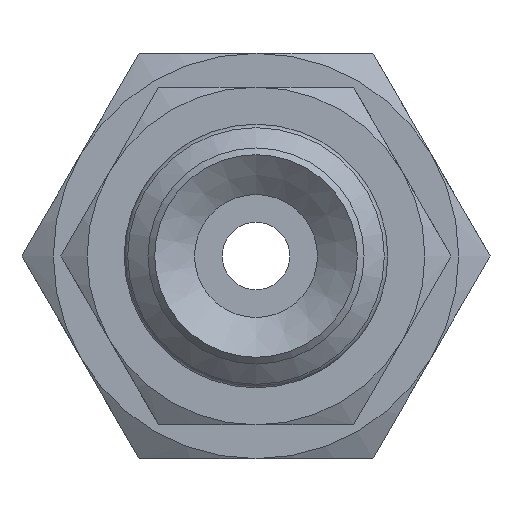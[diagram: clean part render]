
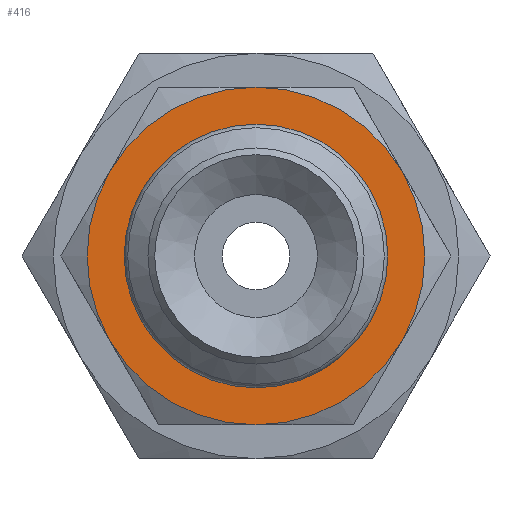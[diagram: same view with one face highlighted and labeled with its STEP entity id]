
A CAD part, front view. The second image highlights one B-rep face of the part: STEP entity #416.
In plain terms, the highlighted planar face has unit normal (0, -1, 0).
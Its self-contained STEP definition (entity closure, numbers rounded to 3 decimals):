
#416=ADVANCED_FACE('',(#546,#547),#548,.T.);
#546=FACE_BOUND('',#801,.T.);
#547=FACE_OUTER_BOUND('',#802,.T.);
#548=PLANE('',#803);
#801=EDGE_LOOP('',(#1140));
#802=EDGE_LOOP('',(#1141,#1142,#1143,#1144,#1145,#1146));
#803=AXIS2_PLACEMENT_3D('',#1147,#1148,#1149);
#1140=ORIENTED_EDGE('',*,*,#1714,.F.);
#1141=ORIENTED_EDGE('',*,*,#1688,.T.);
#1142=ORIENTED_EDGE('',*,*,#1722,.T.);
#1143=ORIENTED_EDGE('',*,*,#1702,.T.);
#1144=ORIENTED_EDGE('',*,*,#1704,.T.);
#1145=ORIENTED_EDGE('',*,*,#1723,.T.);
#1146=ORIENTED_EDGE('',*,*,#1724,.T.);
#1147=CARTESIAN_POINT('',(2.0,0.,0.0));
#1148=DIRECTION('',(0.0,-1.0,0.0));
#1149=DIRECTION('',(0.0,0.0,-1.0));
#1688=EDGE_CURVE('',#1871,#1877,#1879,.T.);
#1702=EDGE_CURVE('',#1902,#1895,#1904,.T.);
#1704=EDGE_CURVE('',#1895,#1905,#1907,.T.);
#1714=EDGE_CURVE('',#1921,#1921,#1922,.T.);
#1722=EDGE_CURVE('',#1877,#1902,#1936,.T.);
#1723=EDGE_CURVE('',#1905,#1854,#1937,.T.);
#1724=EDGE_CURVE('',#1854,#1871,#1938,.T.);
#1854=VERTEX_POINT('',#2160);
#1871=VERTEX_POINT('',#2190);
#1877=VERTEX_POINT('',#2203);
#1879=CIRCLE('',#2207,5.0);
#1895=VERTEX_POINT('',#2235);
#1902=VERTEX_POINT('',#2249);
#1904=CIRCLE('',#2253,5.0);
#1905=VERTEX_POINT('',#2254);
#1907=CIRCLE('',#2258,5.0);
#1921=VERTEX_POINT('',#2277);
#1922=CIRCLE('',#2278,2.0);
#1936=CIRCLE('',#2294,5.0);
#1937=CIRCLE('',#2295,5.0);
#1938=CIRCLE('',#2296,5.0);
#2160=CARTESIAN_POINT('',(-4.33,0.0,-2.5));
#2190=CARTESIAN_POINT('',(0.0,0.0,-5.0));
#2203=CARTESIAN_POINT('',(4.33,0.0,-2.5));
#2207=AXIS2_PLACEMENT_3D('',#2818,#2819,#2820);
#2235=CARTESIAN_POINT('',(0.0,0.0,5.0));
#2249=CARTESIAN_POINT('',(4.33,0.0,2.5));
#2253=AXIS2_PLACEMENT_3D('',#2827,#2828,#2829);
#2254=CARTESIAN_POINT('',(-4.33,0.,2.5));
#2258=AXIS2_PLACEMENT_3D('',#2830,#2831,#2832);
#2277=CARTESIAN_POINT('',(0.0,0.,-2.0));
#2278=AXIS2_PLACEMENT_3D('',#2852,#2853,#2854);
#2294=AXIS2_PLACEMENT_3D('',#2873,#2874,#2875);
#2295=AXIS2_PLACEMENT_3D('',#2876,#2877,#2878);
#2296=AXIS2_PLACEMENT_3D('',#2879,#2880,#2881);
#2818=CARTESIAN_POINT('',(0.0,0.,0.0));
#2819=DIRECTION('',(0.0,-1.0,0.0));
#2820=DIRECTION('',(0.0,0.0,-1.0));
#2827=CARTESIAN_POINT('',(0.0,0.,0.0));
#2828=DIRECTION('',(0.0,-1.0,0.0));
#2829=DIRECTION('',(0.0,0.0,-1.0));
#2830=CARTESIAN_POINT('',(0.0,0.,0.0));
#2831=DIRECTION('',(0.0,-1.0,0.0));
#2832=DIRECTION('',(0.0,0.0,-1.0));
#2852=CARTESIAN_POINT('',(0.0,0.,0.0));
#2853=DIRECTION('',(0.0,-1.0,0.0));
#2854=DIRECTION('',(0.0,0.0,-1.0));
#2873=CARTESIAN_POINT('',(0.0,0.,0.0));
#2874=DIRECTION('',(0.0,-1.0,0.0));
#2875=DIRECTION('',(0.0,0.0,-1.0));
#2876=CARTESIAN_POINT('',(0.0,0.,0.0));
#2877=DIRECTION('',(0.0,-1.0,0.0));
#2878=DIRECTION('',(0.0,0.0,-1.0));
#2879=CARTESIAN_POINT('',(0.0,0.,0.0));
#2880=DIRECTION('',(0.0,-1.0,0.0));
#2881=DIRECTION('',(0.0,0.0,-1.0));
